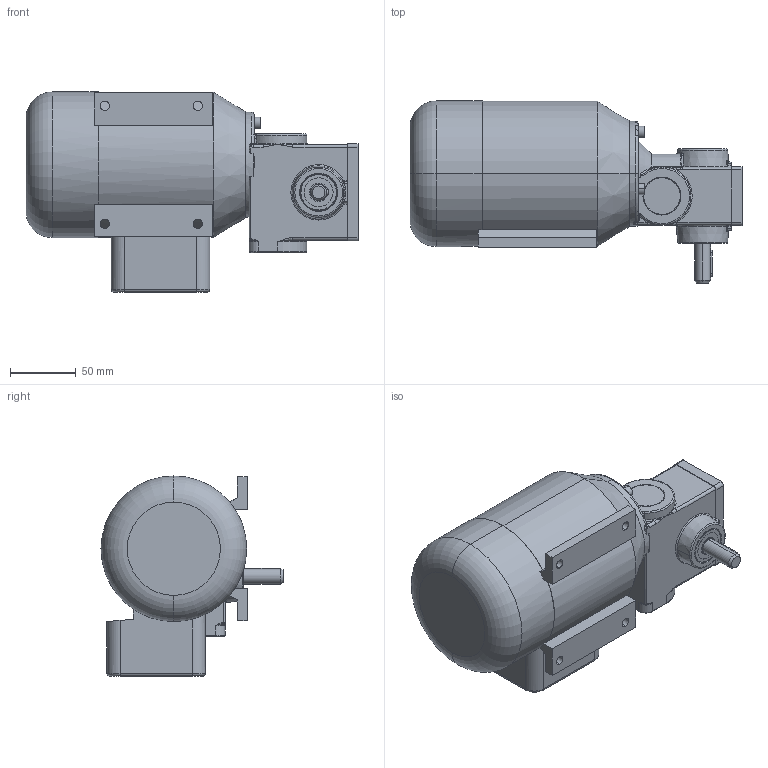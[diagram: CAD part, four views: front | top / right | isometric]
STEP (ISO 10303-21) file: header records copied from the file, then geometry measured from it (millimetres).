
FILE_DESCRIPTION (( 'STEP AP214' ), '1' );
FILE_NAME ('SN6_90W_1400Upm_Drehstrom-Motor_D.STEP', '2021-08-10T12:18:31', ( '' ), ( '' ), 'SwSTEP 2.0', 'SolidWorks 2019', '' );
FILE_SCHEMA (( 'AUTOMOTIVE_DESIGN' ));
Length unit declared in the file: millimetre
Products named in the file (12): SN6_90W_1400Upm_Drehstrom-Motor_D; socket head cap screw_iso_ISO 4762 M3 x 10 - 10C; K_28x4.0; 06-M-017 I 90W_1400Upm_B3; 06-G-001_3D_Export; NBR_WDR_12x28x7; PF_A4x4x20; 06F-D-003_3D-Export; K_28x9.0; socket head cap screw_iso_ISO 4762 M5 x 16 - 16C; SN6_3D_Export; 06-W-001_3D_Export
Assembly tree (17 placements, depth 3):
  SN6_90W_1400Upm_Drehstrom-Motor_D
    SN6_3D_Export
      06-G-001_3D_Export
      06F-D-003_3D-Export
      06-W-001_3D_Export
      PF_A4x4x20
      NBR_WDR_12x28x7
      K_28x9.0
      K_28x4.0  x2
      socket head cap screw_iso_ISO 4762 M5 x 16 - 16C  x3
      socket head cap screw_iso_ISO 4762 M3 x 10 - 10C  x4
    06-M-017 I 90W_1400Upm_B3
Bounding box: 253 x 138.7 x 152.5 mm (x, y, z)
Volume: 2153099.3 mm3; surface area: 161206.7 mm2
Topology: 16 solids, 16 shells, 630 faces, 1464 edges, 859 vertices
Faces by surface type: plane 213, cylinder 211, cone 84, torus 69, bspline 42, sphere 11
Entity records: 16183 total; most frequent: CARTESIAN_POINT 4403, DIRECTION 2498, ORIENTED_EDGE 2232, EDGE_CURVE 1116, AXIS2_PLACEMENT_3D 1023, VERTEX_POINT 685, CIRCLE 556, EDGE_LOOP 549
